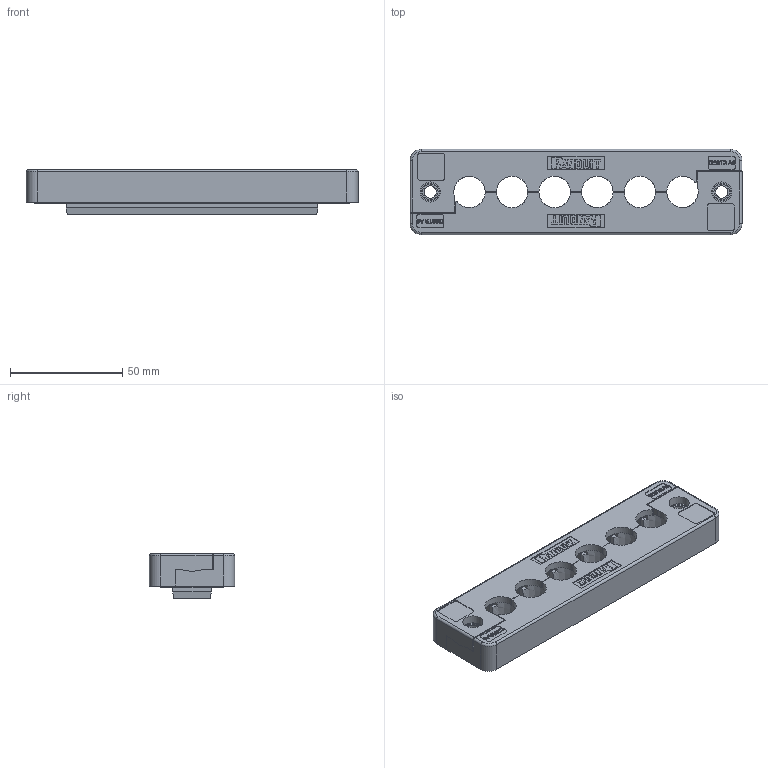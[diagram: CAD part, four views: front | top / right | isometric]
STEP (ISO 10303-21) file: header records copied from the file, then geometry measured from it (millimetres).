
FILE_DESCRIPTION(/* description */ (''),/* implementation_level */ '2;1');
FILE_NAME(/* name */ 'H:\SapWorkDir\Inventor\MP1\ConvertTempPath\87_11_121478_00_A_220620_KDL-D 1-6 ZSB.stp',/* time_stamp */ '2022-06-20T14:33:45+02:00',/* author */ ('BAUER'),/* organization */ (''),/* preprocessor_version */ 'ST-DEVELOPER v16.13',/* originating_system */ 'Autodesk Inventor 2018',/* authorisation */ '');
FILE_SCHEMA (('AUTOMOTIVE_DESIGN { 1 0 10303 214 3 1 1 }'));
Length unit declared in the file: millimetre
Products named in the file (3): 121478; Block2x6 neu; 121425
Assembly tree (3 placements, depth 2):
  121478
    Block2x6 neu
    121425  x2
Bounding box: 148 x 38 x 20 mm (x, y, z)
Volume: 65900.8 mm3; surface area: 35923.4 mm2
Topology: 3 solids, 3 shells, 923 faces, 2512 edges, 1666 vertices
Faces by surface type: plane 604, cylinder 156, bspline 145, torus 12, cone 6
Full cylindrical faces by diameter (mm): 4 x4, 5.5 x6, 6 x2, 7 x2, 8 x2, 9 x2
Entity records: 19657 total; most frequent: CARTESIAN_POINT 4548, ORIENTED_EDGE 3288, DIRECTION 2780, EDGE_CURVE 1644, LINE 1184, VECTOR 1184, VERTEX_POINT 1094, AXIS2_PLACEMENT_3D 798
